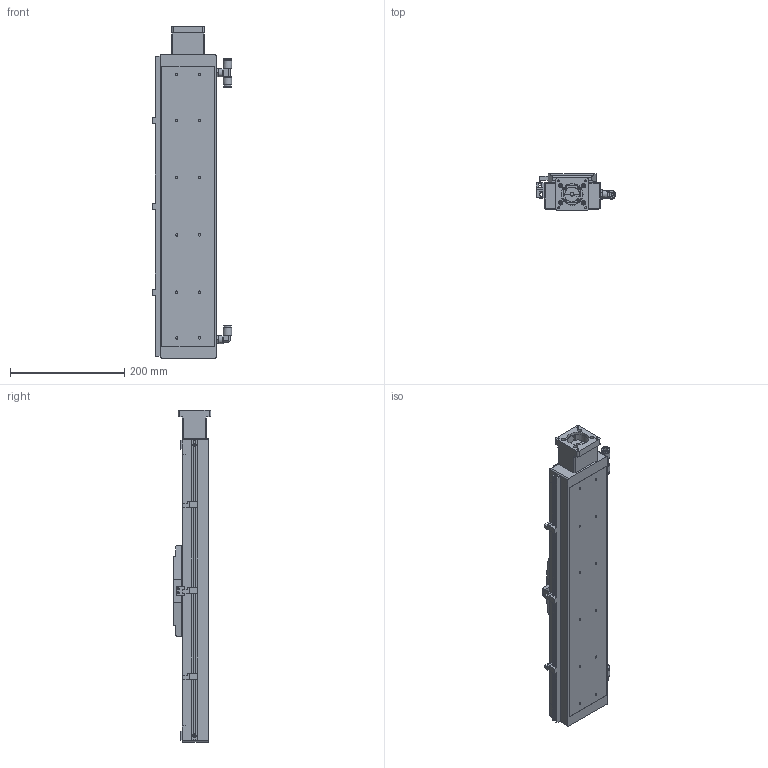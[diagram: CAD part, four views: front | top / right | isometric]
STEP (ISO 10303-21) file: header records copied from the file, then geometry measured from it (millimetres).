
FILE_DESCRIPTION((''),'2;1');
FILE_NAME('E:\libraries\UIA actuator library 2016\Clean room actuator\UIA098CR12DC\UIA098CR12 stp file 05May16\UIA098CR12DC-300-R16_ _-M23-P13-C10-S.stp','2016-05-09T14:41:43',('h029'),(''),'Autodesk Inventor 11','Autodesk Inventor 11','');
FILE_SCHEMA(('AUTOMOTIVE_DESIGN { 1 0 10303 214 1 1 1 1 }'));
Length unit declared in the file: millimetre
Products named in the file (12): UIA098CR12DC-300; body, UIA098CR12DC-300; carriage, UIA098CR12DC; Sensor Switch, UIA098CR12DC; Motor mount; SOH-25C; SOH-25C-2; SOH-25C-3; SOH-25C-1; Sensor Rail, UIA098CR12DC-300_MIR; vacuum port 1, UIA098CR12DC_MIR; vacuum port 2, UIA098CR12DC_MIR
Assembly tree (11 placements, depth 3):
  UIA098CR12DC-300
    body, UIA098CR12DC-300
    carriage, UIA098CR12DC
    Sensor Switch, UIA098CR12DC
    Motor mount
    SOH-25C
      SOH-25C-2
      SOH-25C-3
      SOH-25C-1
    Sensor Rail, UIA098CR12DC-300_MIR
    vacuum port 1, UIA098CR12DC_MIR
    vacuum port 2, UIA098CR12DC_MIR
Bounding box: 138.4 x 65.5 x 580 mm (x, y, z)
Volume: 2612739.5 mm3; surface area: 277530.3 mm2
Topology: 10 solids, 10 shells, 676 faces, 1761 edges, 1148 vertices
Faces by surface type: plane 303, bspline 284, cylinder 86, cone 3
Full cylindrical faces by diameter (mm): 3 x3, 5.6 x8, 8 x4, 9 x2, 10 x1, 13 x1, 15 x2, 18 x1, 25.5 x3, 37 x1, 38.1 x1
Entity records: 21923 total; most frequent: CARTESIAN_POINT 6412, ORIENTED_EDGE 3152, DIRECTION 2769, EDGE_CURVE 1576, VECTOR 1147, LINE 1147, VERTEX_POINT 1090, EDGE_LOOP 930
